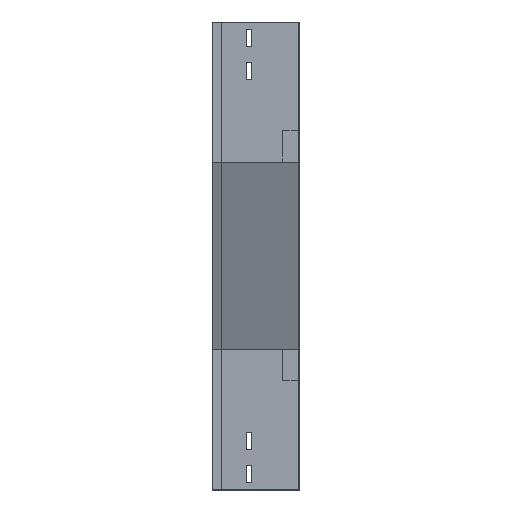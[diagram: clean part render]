
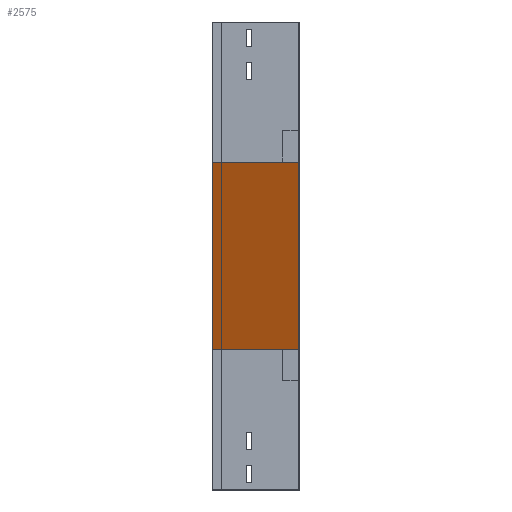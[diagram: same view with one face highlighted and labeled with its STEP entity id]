
A CAD part, left-side view. The second image highlights one B-rep face of the part: STEP entity #2575.
In plain terms, the highlighted planar face has unit normal (-0.923, 0, -0.385).
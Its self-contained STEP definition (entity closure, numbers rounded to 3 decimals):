
#47 = VERTEX_POINT ( 'NONE', #3324 ) ;
#135 = FACE_OUTER_BOUND ( 'NONE', #3544, .T. ) ;
#190 = VERTEX_POINT ( 'NONE', #648 ) ;
#208 = VECTOR ( 'NONE', #2258, 1000. ) ;
#361 = ORIENTED_EDGE ( 'NONE', *, *, #1595, .F. ) ;
#543 = VERTEX_POINT ( 'NONE', #1624 ) ;
#648 = CARTESIAN_POINT ( 'NONE',  ( 0., 112.5, -180. ) ) ;
#737 = EDGE_CURVE ( 'NONE', #190, #744, #3596, .T. ) ;
#742 = LINE ( 'NONE', #2979, #1716 ) ;
#744 = VERTEX_POINT ( 'NONE', #1652 ) ;
#1086 = CARTESIAN_POINT ( 'NONE',  ( 0., 0., -180. ) ) ;
#1110 = DIRECTION ( 'NONE',  ( 0.385, 0., -0.923 ) ) ;
#1138 = EDGE_CURVE ( 'NONE', #744, #543, #742, .T. ) ;
#1383 = CARTESIAN_POINT ( 'NONE',  ( 100., 0., -420. ) ) ;
#1505 = ORIENTED_EDGE ( 'NONE', *, *, #3002, .T. ) ;
#1595 = EDGE_CURVE ( 'NONE', #543, #47, #3329, .T. ) ;
#1624 = CARTESIAN_POINT ( 'NONE',  ( 100., 0., -420. ) ) ;
#1652 = CARTESIAN_POINT ( 'NONE',  ( 0., 0., -180. ) ) ;
#1716 = VECTOR ( 'NONE', #1110, 1000. ) ;
#1765 = DIRECTION ( 'NONE',  ( 0.923, 0., 0.385 ) ) ;
#1817 = DIRECTION ( 'NONE',  ( 0.385, 0., -0.923 ) ) ;
#2036 = LINE ( 'NONE', #3157, #208 ) ;
#2198 = DIRECTION ( 'NONE',  ( 0., -1., 0. ) ) ;
#2258 = DIRECTION ( 'NONE',  ( 0.385, 0., -0.923 ) ) ;
#2369 = CARTESIAN_POINT ( 'NONE',  ( 0., 0., -180. ) ) ;
#2575 = ADVANCED_FACE ( 'NONE', ( #135 ), #3237, .F. ) ;
#2846 = AXIS2_PLACEMENT_3D ( 'NONE', #2369, #1765, #1817 ) ;
#2979 = CARTESIAN_POINT ( 'NONE',  ( 0., 0., -180. ) ) ;
#3002 = EDGE_CURVE ( 'NONE', #190, #47, #2036, .T. ) ;
#3157 = CARTESIAN_POINT ( 'NONE',  ( 0., 112.5, -180. ) ) ;
#3237 = PLANE ( 'NONE',  #2846 ) ;
#3245 = VECTOR ( 'NONE', #3539, 1000. ) ;
#3318 = ORIENTED_EDGE ( 'NONE', *, *, #737, .F. ) ;
#3324 = CARTESIAN_POINT ( 'NONE',  ( 100., 112.5, -420. ) ) ;
#3329 = LINE ( 'NONE', #1383, #3245 ) ;
#3347 = ORIENTED_EDGE ( 'NONE', *, *, #1138, .F. ) ;
#3524 = VECTOR ( 'NONE', #2198, 1000. ) ;
#3539 = DIRECTION ( 'NONE',  ( 0., 1., 0. ) ) ;
#3544 = EDGE_LOOP ( 'NONE', ( #3347, #3318, #1505, #361 ) ) ;
#3596 = LINE ( 'NONE', #1086, #3524 ) ;
